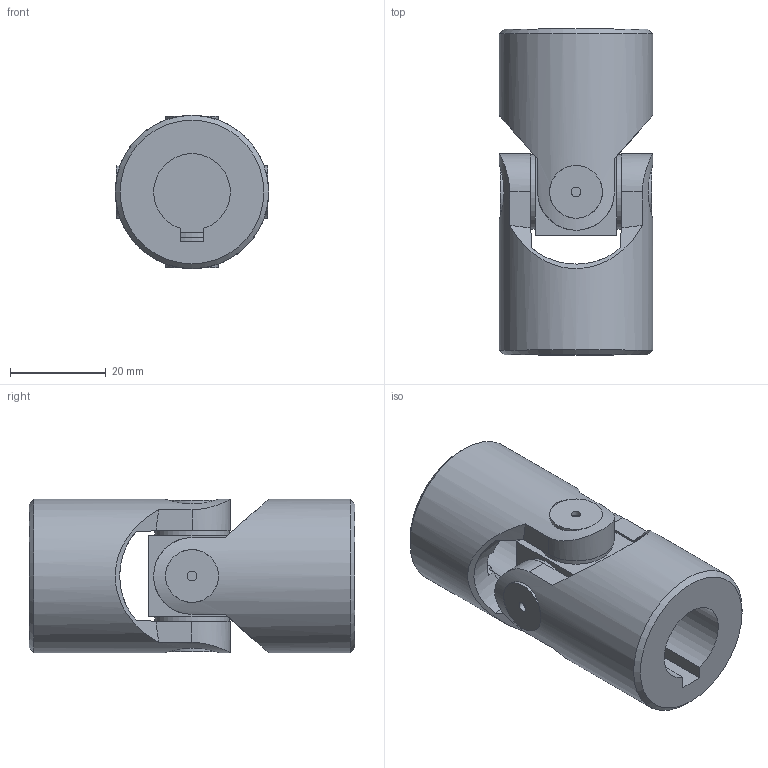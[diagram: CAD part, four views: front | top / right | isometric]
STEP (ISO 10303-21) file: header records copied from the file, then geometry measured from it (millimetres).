
FILE_DESCRIPTION(/* description */ (''),/* implementation_level */ '2;1');
FILE_NAME(/* name */ '\\SRV2016\societa\Stefano\Disegni 3D\Dis. Clienti\0000Catalogo 3D\01Singoli G-GB\SG0S162Q.stp',/* time_stamp */ '2021-11-08T16:51:14+01:00',/* author */ ('acquisti'),/* organization */ (''),/* preprocessor_version */ 'ST-DEVELOPER v15.6',/* originating_system */ 'Autodesk Inventor 2015',/* authorisation */ '');
FILE_SCHEMA (('AUTOMOTIVE_DESIGN { 1 0 10303 214 3 1 1 }'));
Length unit declared in the file: millimetre
Products named in the file (3): 1G SFE; 1G MOC; Assieme1
Assembly tree (3 placements, depth 2):
  Assieme1
    1G SFE
    1G MOC  x2
Bounding box: 32 x 68 x 32 mm (x, y, z)
Volume: 37181.7 mm3; surface area: 13835.1 mm2
Topology: 3 solids, 3 shells, 90 faces, 212 edges, 138 vertices
Faces by surface type: plane 42, cylinder 34, cone 12, torus 2
Full cylindrical faces by diameter (mm): 2 x4, 15.5 x4, 32 x2
Entity records: 1661 total; most frequent: CARTESIAN_POINT 506, DIRECTION 227, ORIENTED_EDGE 214, EDGE_CURVE 107, AXIS2_PLACEMENT_3D 97, VERTEX_POINT 75, EDGE_LOOP 70, FACE_OUTER_BOUND 52
